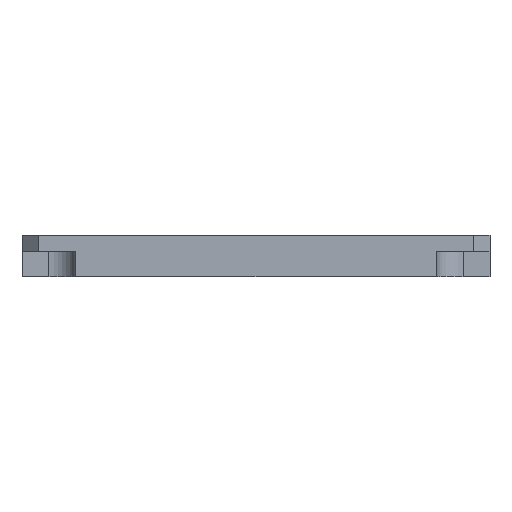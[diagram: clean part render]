
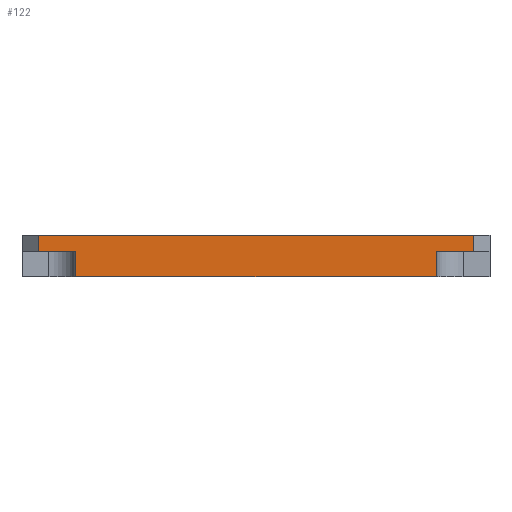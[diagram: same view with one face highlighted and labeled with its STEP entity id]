
A CAD part, front view. The second image highlights one B-rep face of the part: STEP entity #122.
In plain terms, the highlighted planar face has unit normal (0, -1, 0).
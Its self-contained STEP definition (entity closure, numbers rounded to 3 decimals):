
#122=ADVANCED_FACE('',(#233),#1141,.T.);
#233=FACE_OUTER_BOUND('',#372,.F.);
#372=EDGE_LOOP('',(#584,#585,#586,#587,#588,#589,#590,#591));
#584=ORIENTED_EDGE('',*,*,#1465,.F.);
#585=ORIENTED_EDGE('',*,*,#1477,.F.);
#586=ORIENTED_EDGE('',*,*,#1418,.T.);
#587=ORIENTED_EDGE('',*,*,#1417,.T.);
#588=ORIENTED_EDGE('',*,*,#1470,.T.);
#589=ORIENTED_EDGE('',*,*,#1425,.T.);
#590=ORIENTED_EDGE('',*,*,#1424,.T.);
#591=ORIENTED_EDGE('',*,*,#1476,.T.);
#1141=PLANE('',#2370);
#1417=EDGE_CURVE('',#2126,#2125,#1674,.T.);
#1418=EDGE_CURVE('',#2127,#2126,#1675,.T.);
#1424=EDGE_CURVE('',#2120,#2119,#1678,.T.);
#1425=EDGE_CURVE('',#2118,#2120,#1679,.T.);
#1465=EDGE_CURVE('',#2078,#2079,#1704,.T.);
#1470=EDGE_CURVE('',#2125,#2118,#1709,.T.);
#1476=EDGE_CURVE('',#2119,#2079,#1715,.T.);
#1477=EDGE_CURVE('',#2127,#2078,#1716,.T.);
#1674=LINE('',#3470,#1873);
#1675=LINE('',#3471,#1874);
#1678=LINE('',#3477,#1877);
#1679=LINE('',#3478,#1878);
#1704=LINE('',#3518,#1903);
#1709=LINE('',#3523,#1908);
#1715=LINE('',#3529,#1914);
#1716=LINE('',#3530,#1915);
#1873=VECTOR('',#2652,2.4);
#1874=VECTOR('',#2653,3.5);
#1877=VECTOR('',#2662,3.5);
#1878=VECTOR('',#2663,2.4);
#1903=VECTOR('',#2718,40.5);
#1908=VECTOR('',#2723,33.5);
#1914=VECTOR('',#2729,1.5);
#1915=VECTOR('',#2730,1.5);
#2078=VERTEX_POINT('',#3198);
#2079=VERTEX_POINT('',#3199);
#2118=VERTEX_POINT('',#3238);
#2119=VERTEX_POINT('',#3239);
#2120=VERTEX_POINT('',#3240);
#2125=VERTEX_POINT('',#3245);
#2126=VERTEX_POINT('',#3246);
#2127=VERTEX_POINT('',#3247);
#2370=AXIS2_PLACEMENT_3D('',#3687,#2934,#2935);
#2652=DIRECTION('',(0.,0.,-1.));
#2653=DIRECTION('',(-1.,0.,0.));
#2662=DIRECTION('',(-1.,0.,0.));
#2663=DIRECTION('',(0.,0.,1.));
#2718=DIRECTION('',(-1.,0.,0.));
#2723=DIRECTION('',(-1.,0.,0.));
#2729=DIRECTION('',(0.,0.,1.));
#2730=DIRECTION('',(0.,0.,1.));
#2934=DIRECTION('',(0.,-1.,0.));
#2935=DIRECTION('',(-1.,0.,0.));
#3198=CARTESIAN_POINT('',(25.007,-20.696,-69.027));
#3199=CARTESIAN_POINT('',(-15.493,-20.696,-69.027));
#3238=CARTESIAN_POINT('',(-11.993,-20.696,-72.927));
#3239=CARTESIAN_POINT('',(-15.493,-20.696,-70.527));
#3240=CARTESIAN_POINT('',(-11.993,-20.696,-70.527));
#3245=CARTESIAN_POINT('',(21.507,-20.696,-72.927));
#3246=CARTESIAN_POINT('',(21.507,-20.696,-70.527));
#3247=CARTESIAN_POINT('',(25.007,-20.696,-70.527));
#3470=CARTESIAN_POINT('',(21.507,-20.696,-70.527));
#3471=CARTESIAN_POINT('',(25.007,-20.696,-70.527));
#3477=CARTESIAN_POINT('',(-11.993,-20.696,-70.527));
#3478=CARTESIAN_POINT('',(-11.993,-20.696,-72.927));
#3518=CARTESIAN_POINT('',(25.007,-20.696,-69.027));
#3523=CARTESIAN_POINT('',(21.507,-20.696,-72.927));
#3529=CARTESIAN_POINT('',(-15.493,-20.696,-70.527));
#3530=CARTESIAN_POINT('',(25.007,-20.696,-70.527));
#3687=CARTESIAN_POINT('',(25.412,-20.696,-68.622));
